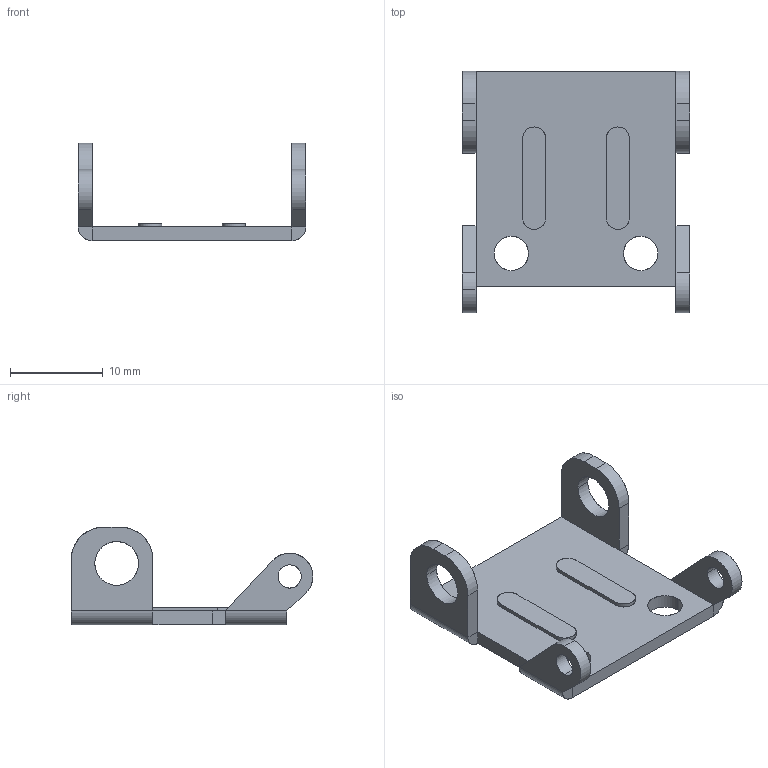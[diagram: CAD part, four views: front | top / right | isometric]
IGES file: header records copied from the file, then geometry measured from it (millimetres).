
Start section: SolidWorks IGES FILE using analytic representation for surfaces
Global section: file name: C:\Documents and Settings\brechard\Bureau\GP 13\12.020.10.IGS; native system: SolidWorks 2001Plus by SolidWorks Corporation; preprocessor: Version 5.3; author: brechard; date: 050126.144043; units: millimetre
Bounding box: 24.5 x 26 x 10.5 mm (x, y, z)
Surface area: 1742.4 mm2 (no closed solid volume)
Topology: 0 solids, 0 shells, 77 faces, 1124 edges, 1124 vertices
Faces by surface type: bspline 46, revolution 31
